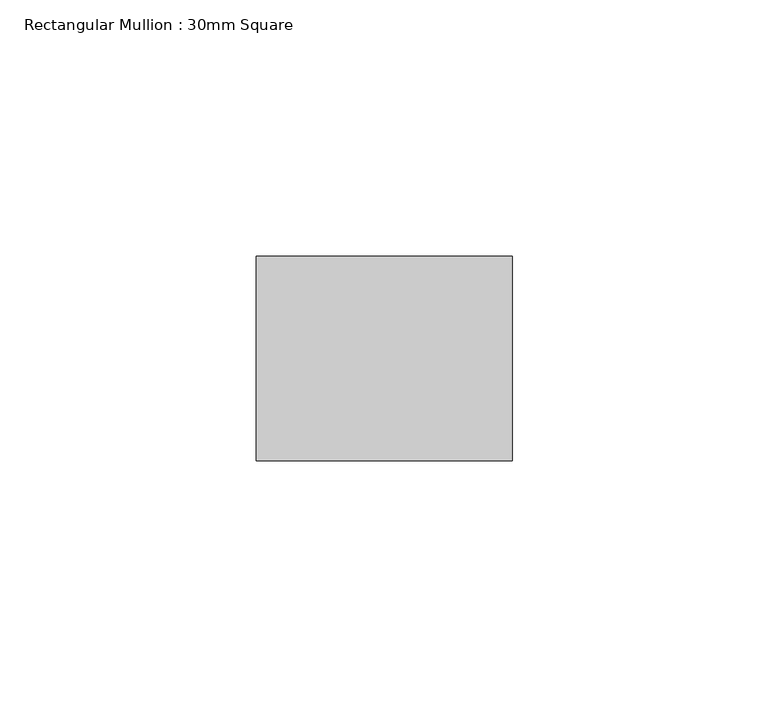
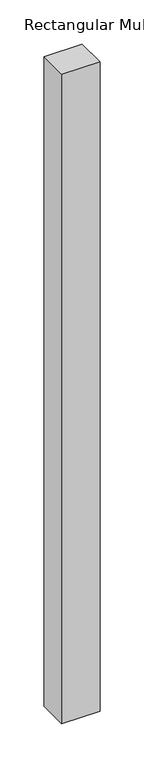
"""IFC4 building model written with IfcOpenShell, lengths in millimetres: member geometry, Rectangular Mullion : 30mm Square."""

import ifcopenshell
import ifcopenshell.guid

model = None  # the IFC model being written
_history = None  # IfcOwnerHistory: only IFC2X3 demands one
_inside = {}  # id of a spatial element -> (the spatial element, [elements in it])
_under = {}  # id of a project, library or spatial element -> (it, [spatial elements below it])
_declared = {}  # id of a project -> (the project, [libraries it declares])
_typed = {}  # id of a type object -> (the type object, [elements of that type])
_made_of = {}  # id of a material, layer set ... -> (it, [elements and type objects made of it])


def new_model(schema):
    """Start an empty IFC model of exactly this schema.

    Asked for "IFC4X3", IfcOpenShell would pick the latest addendum, in which some entities
    have other attributes; the version numbers below select the first issue.
    IFC2X3 requires an IfcOwnerHistory on every rooted entity: one is made here for all.
    """
    global model, _history
    if schema == "IFC4X3":
        model = ifcopenshell.file(schema_version=(4, 3, 0, 0))
    else:
        model = ifcopenshell.file(schema=schema)
    _inside.clear()
    _under.clear()
    _declared.clear()
    _typed.clear()
    _made_of.clear()
    _history = None
    if model.schema == "IFC2X3":
        org = make("IfcOrganization", Name="unknown")
        user = make(
            "IfcPersonAndOrganization",
            ThePerson=make("IfcPerson", FamilyName="unknown"),
            TheOrganization=org,
        )
        app = make(
            "IfcApplication",
            ApplicationDeveloper=org,
            Version="unknown",
            ApplicationFullName="unknown",
            ApplicationIdentifier="unknown",
        )
        _history = make(
            "IfcOwnerHistory",
            OwningUser=user,
            OwningApplication=app,
            ChangeAction="ADDED",
            CreationDate=0,
        )
    return model


def make(cls, **values):
    """One entity of the class cls with the attributes given. An attribute that is None is left unset."""
    return model.create_entity(
        cls, **{name: value for name, value in values.items() if value is not None}
    )


def rooted(cls, **values):
    """An entity with a GlobalId (a new one), such as an element, a storey or a relation."""
    return make(cls, GlobalId=ifcopenshell.guid.new(), OwnerHistory=_history, **values)


def si_unit(unit_type, name, prefix=None):
    """IfcSIUnit, for example si_unit("LENGTHUNIT", "METRE", prefix="MILLI")."""
    return make("IfcSIUnit", UnitType=unit_type, Prefix=prefix, Name=name)


def assignment(units):
    """IfcUnitAssignment: the units of a project."""
    return None if units is None else make("IfcUnitAssignment", Units=units)


def point(xyz):
    """IfcCartesianPoint."""
    return None if xyz is None else make("IfcCartesianPoint", Coordinates=xyz)


def direction(xyz):
    """IfcDirection."""
    return None if xyz is None else make("IfcDirection", DirectionRatios=xyz)


def frame(location, z_axis=None, x_axis=None):
    """IfcAxis2Placement3D, a coordinate frame: its origin and axes. An axis left out is left unset."""
    return make(
        "IfcAxis2Placement3D",
        Location=point(location),
        Axis=direction(z_axis),
        RefDirection=direction(x_axis),
    )


def origin():
    """The frame at (0, 0, 0) with its axes left unset."""
    return frame((0.0, 0.0, 0.0))


def place(relative_to, where):
    """IfcLocalPlacement: puts the frame where relative to a parent placement (None: the world)."""
    return make(
        "IfcLocalPlacement", PlacementRelTo=relative_to, RelativePlacement=where
    )


def context(
    kind, dimensions, precision=None, world=None, true_north=None, identifier=None
):
    """IfcGeometricRepresentationContext, for example the 3D "Model" context."""
    return make(
        "IfcGeometricRepresentationContext",
        ContextIdentifier=identifier,
        ContextType=kind,
        CoordinateSpaceDimension=dimensions,
        Precision=precision,
        WorldCoordinateSystem=world,
        TrueNorth=true_north,
    )


def project(units=None, contexts=None):
    """IfcProject with its units and contexts."""
    return rooted(
        "IfcProject",
        Name="project",
        RepresentationContexts=contexts,
        UnitsInContext=assignment(units),
    )


def spatial(cls, under=None, at=None, **own):
    """A site, building, storey or space (cls), placed at a placement, below another one or the project."""
    s = rooted(cls, ObjectPlacement=at, **own)
    if under is not None:
        _under.setdefault(under.id(), (under, []))[1].append(s)
    return s


def polyline(points):
    """IfcPolyline through the points."""
    return make("IfcPolyline", Points=[point(p) for p in points])


def outline(outer, holes=None, kind="AREA"):
    """IfcArbitraryClosedProfileDef: a profile drawn as a closed curve; with holes, ...WithVoids."""
    if holes is None:
        return make("IfcArbitraryClosedProfileDef", ProfileType=kind, OuterCurve=outer)
    return make(
        "IfcArbitraryProfileDefWithVoids",
        ProfileType=kind,
        OuterCurve=outer,
        InnerCurves=holes,
    )


def extrude(swept, where, along, depth):
    """IfcExtrudedAreaSolid: the profile swept, set in the frame where, extruded along a direction by depth."""
    return make(
        "IfcExtrudedAreaSolid",
        SweptArea=swept,
        Position=where,
        ExtrudedDirection=direction(along),
        Depth=depth,
    )


def shape(context_of_items, identifier, shape_type, items):
    """IfcShapeRepresentation: the items that make up one representation, for example the "Body"."""
    return make(
        "IfcShapeRepresentation",
        ContextOfItems=context_of_items,
        RepresentationIdentifier=identifier,
        RepresentationType=shape_type,
        Items=items,
    )


def source(mapping_origin, context_of_items, identifier, shape_type, items):
    """IfcRepresentationMap: a shape defined once, which mapped items show again and again."""
    return make(
        "IfcRepresentationMap",
        MappingOrigin=mapping_origin,
        MappedRepresentation=shape(context_of_items, identifier, shape_type, items),
    )


def transform(
    local_origin,
    x_axis=None,
    y_axis=None,
    z_axis=None,
    scale=None,
    scale2=None,
    scale3=None,
    uniform=True,
):
    """IfcCartesianTransformationOperator3D, or its non-uniform kind. x_axis, y_axis, z_axis: its Axis1, 2, 3."""
    if uniform:
        return make(
            "IfcCartesianTransformationOperator3D",
            Axis1=direction(x_axis),
            Axis2=direction(y_axis),
            LocalOrigin=point(local_origin),
            Scale=scale,
            Axis3=direction(z_axis),
        )
    return make(
        "IfcCartesianTransformationOperator3DnonUniform",
        Axis1=direction(x_axis),
        Axis2=direction(y_axis),
        LocalOrigin=point(local_origin),
        Scale=scale,
        Axis3=direction(z_axis),
        Scale2=scale2,
        Scale3=scale3,
    )


def mapped(mapping_source, mapping_target):
    """IfcMappedItem: shows the shape of a source again, moved by a transform."""
    return make(
        "IfcMappedItem", MappingSource=mapping_source, MappingTarget=mapping_target
    )


def made_of(thing, what):
    """Note that an element or type object is made of a material, layer set ...; save() writes the relation."""
    if what is not None:
        _made_of.setdefault(what.id(), (what, []))[1].append(thing)
    return thing


def element(
    cls,
    number,
    at=None,
    inside=None,
    cuts=None,
    type_object=None,
    material=None,
    context=None,
    identifier="Body",
    shape_type=None,
    held_by="IfcProductDefinitionShape",
    body=None,
    shapes=None,
    **own,
):
    """One element of the class cls, such as IfcWall. Its Tag is "e" and its number.

    at: its placement. inside: the storey or other place that contains it. cuts: it is an
    opening in that element (IfcRelVoidsElement). A single representation is given by context,
    identifier, shape_type and body (its items); several are given by shapes. held_by: the class
    of the entity that holds the representations. save() writes the other relations.
    """
    e = rooted(cls, Tag="e%d" % number, ObjectPlacement=at, **own)
    if body is not None:
        shapes = [shape(context, identifier, shape_type, body)]
    if shapes is not None:
        e.Representation = make(held_by, Representations=shapes)
    if inside is not None:
        _inside.setdefault(inside.id(), (inside, []))[1].append(e)
    if cuts is not None:
        rooted(
            "IfcRelVoidsElement", RelatingBuildingElement=cuts, RelatedOpeningElement=e
        )
    if type_object is not None:
        _typed.setdefault(type_object.id(), (type_object, []))[1].append(e)
    return made_of(e, material)


def aggregate(whole, parts):
    """IfcRelAggregates: a whole, such as a stair, and the parts it consists of."""
    return rooted("IfcRelAggregates", RelatingObject=whole, RelatedObjects=parts)


def save(model, path):
    """Write the relations noted so far, then the file.

    IfcRelAggregates (storeys below a building ...), IfcRelContainedInSpatialStructure (elements
    in a storey), IfcRelDefinesByType, IfcRelAssociatesMaterial and IfcRelDeclares: one each for
    every whole, place, type object, material and project.
    """
    for whole, parts in _under.values():
        aggregate(whole, parts)
    for where, things in _inside.values():
        rooted(
            "IfcRelContainedInSpatialStructure",
            RelatedElements=things,
            RelatingStructure=where,
        )
    for kind, things in _typed.values():
        rooted("IfcRelDefinesByType", RelatedObjects=things, RelatingType=kind)
    for what, things in _made_of.values():
        rooted("IfcRelAssociatesMaterial", RelatedObjects=things, RelatingMaterial=what)
    for by, libraries in _declared.values():
        rooted("IfcRelDeclares", RelatingContext=by, RelatedDefinitions=libraries)
    model.write(path)


def rectangular_mullion_30mm_square_532ac5bd(model_context):
    return source(origin(), model_context, "Body", "SweptSolid", [
        extrude(outline(polyline([(25.0, 20.0), (25.0, -20.0), (-25.0, -20.0), (-25.0, 20.0), (25.0, 20.0)])), frame((0.0, 0.0, -898.3333333), z_axis=(0.0, 0.0, 1.0), x_axis=(1.0, 0.0, 0.0)), (0.0, 0.0, 1.0), 898.3333333),
    ])


if __name__ == "__main__":
    model = new_model("IFC4")
    model_context = context("Model", 3, world=origin())
    ifc_project = project(units=[si_unit("LENGTHUNIT", "METRE", prefix="MILLI")], contexts=[model_context])
    site = spatial("IfcSite", under=ifc_project)
    building = spatial("IfcBuilding", under=site)
    placement = place(None, origin())
    rectangular_mullion_30mm_square_shape = rectangular_mullion_30mm_square_532ac5bd(model_context)
    element("IfcMember", 1, ObjectType="Rectangular Mullion : 30mm Square", at=placement, inside=building, context=model_context, shape_type="MappedRepresentation", body=[
        mapped(rectangular_mullion_30mm_square_shape, transform((0.0, 0.0, 0.0), x_axis=(1.0, 0.0, 0.0), y_axis=(0.0, 1.0, 0.0), z_axis=(0.0, 0.0, 1.0))),
    ])
    save(model, "model.ifc")
